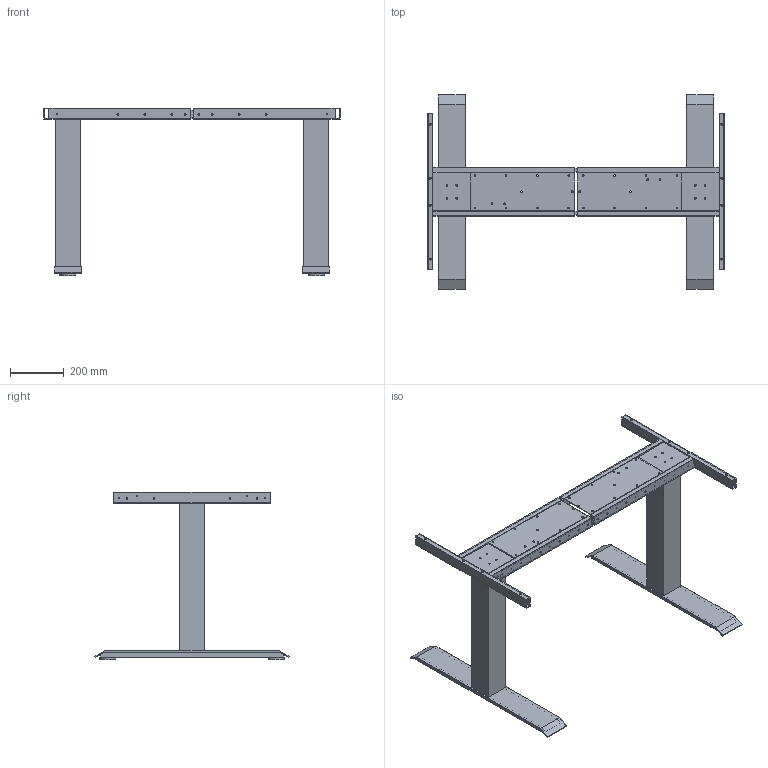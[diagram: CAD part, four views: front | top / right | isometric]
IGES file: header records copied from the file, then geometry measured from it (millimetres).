
Start section: Data from Parasolid IGES Translator 15.0.47, Copyright(c) 2006 Siemens P LM Software. All Rights Reserved.
Global section: file name: 9193251.igs; native system:  By UGS Corp.; preprocessor: XPlus GENERIC/IGES 3.0; author: Noname; organization: Noname; date: 20160706.173408; units: millimetre
Bounding box: 1100 x 720 x 620.5 mm (x, y, z)
Surface area: 2167410.4 mm2 (no closed solid volume)
Topology: 0 solids, 0 shells, 324 faces, 1752 edges, 1456 vertices
Faces by surface type: extrusion 168, revolution 156
